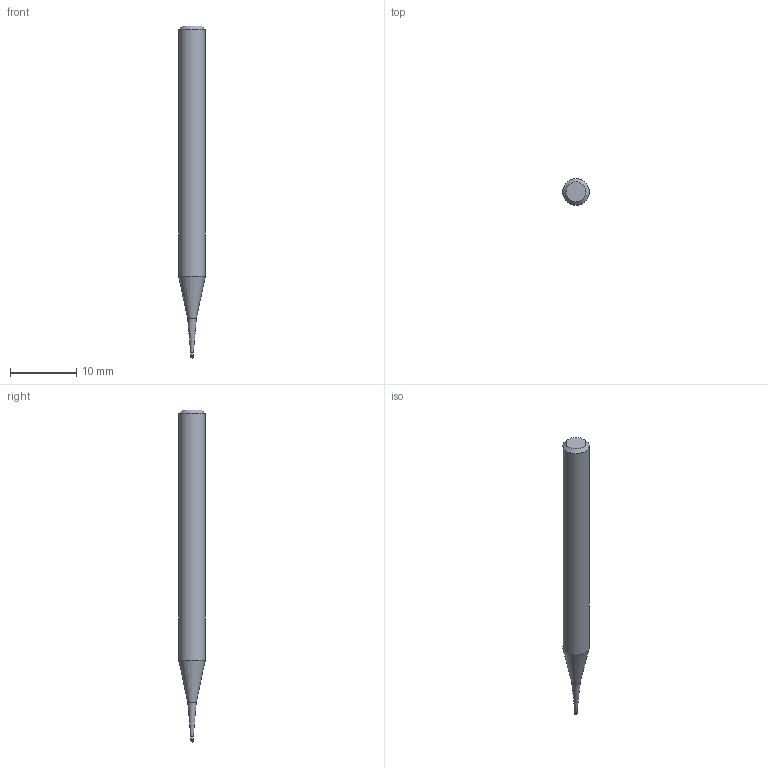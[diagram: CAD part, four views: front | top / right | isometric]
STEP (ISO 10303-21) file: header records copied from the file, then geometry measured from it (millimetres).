
FILE_DESCRIPTION((''),'2;1');
FILE_NAME('C:\Users\nsx150\AppData\Local\Temp\Mastercam 2021\SNAKH10GOD\TEMP.step','2021-10-21T13:31:07',(''),(''),'STEP Write','Mastercam 2021 ... CNC Software, Inc.','');
FILE_SCHEMA(('AUTOMOTIVE_DESIGN'));
Length unit declared in the file: millimetre
Products named in the file (1): None
Bounding box: 4 x 4 x 50 mm (x, y, z)
Volume: 513.3 mm3; surface area: 551.2 mm2
Topology: 2 solids, 2 shells, 10 faces, 16 edges, 9 vertices
Faces by surface type: plane 3, cylinder 3, cone 3, sphere 1
Full cylindrical faces by diameter (mm): 0.395 x1, 0.4 x1, 4 x1
Entity records: 232 total; most frequent: DIRECTION 40, CARTESIAN_POINT 28, AXIS2_PLACEMENT_3D 20, ORIENTED_EDGE 16, EDGE_LOOP 16, STYLED_ITEM 13, ADVANCED_FACE 10, FACE_BOUND 9
